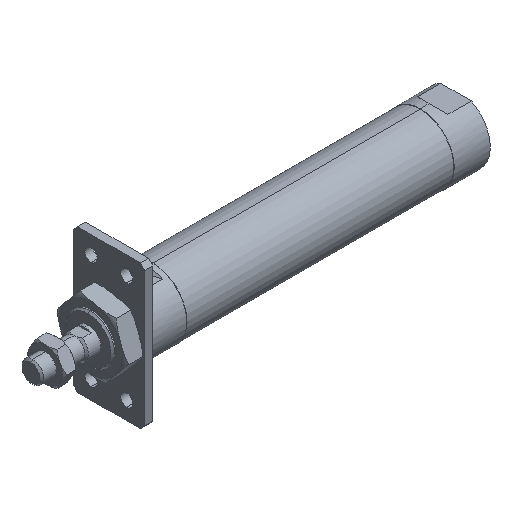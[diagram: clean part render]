
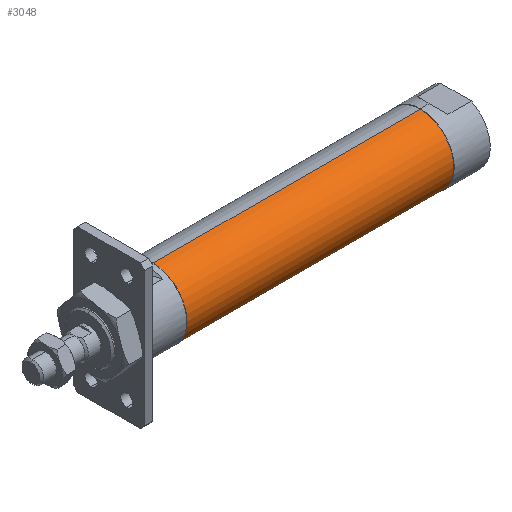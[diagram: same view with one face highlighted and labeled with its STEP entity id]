
A CAD part, isometric view. The second image highlights one B-rep face of the part: STEP entity #3048.
In plain terms, the highlighted cylindrical face has radius 18.8 mm (diameter 37.6 mm), a partial arc.
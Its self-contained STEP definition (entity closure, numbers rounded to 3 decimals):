
#91 = FACE_OUTER_BOUND ( 'NONE', #1168, .T. ) ;
#155 = EDGE_CURVE ( 'NONE', #1259, #759, #2186, .T. ) ;
#200 = CIRCLE ( 'NONE', #1493, 18.8 ) ;
#400 = ORIENTED_EDGE ( 'NONE', *, *, #155, .T. ) ;
#558 = VECTOR ( 'NONE', #3458, 1000. ) ;
#676 = CARTESIAN_POINT ( 'NONE',  ( 217., 0., 0. ) ) ;
#759 = VERTEX_POINT ( 'NONE', #1967 ) ;
#1085 = EDGE_CURVE ( 'NONE', #1259, #3727, #2320, .T. ) ;
#1112 = DIRECTION ( 'NONE',  ( -1., 0., 0. ) ) ;
#1168 = EDGE_LOOP ( 'NONE', ( #3917, #400, #2779, #1855 ) ) ;
#1259 = VERTEX_POINT ( 'NONE', #1742 ) ;
#1397 = DIRECTION ( 'NONE',  ( -1., 0., 0. ) ) ;
#1493 = AXIS2_PLACEMENT_3D ( 'NONE', #2207, #1877, #4102 ) ;
#1599 = EDGE_CURVE ( 'NONE', #759, #1987, #1856, .T. ) ;
#1673 = DIRECTION ( 'NONE',  ( -1., 0., 0. ) ) ;
#1742 = CARTESIAN_POINT ( 'NONE',  ( 217., 0., -18.8 ) ) ;
#1855 = ORIENTED_EDGE ( 'NONE', *, *, #3834, .F. ) ;
#1856 = LINE ( 'NONE', #3434, #558 ) ;
#1867 = CARTESIAN_POINT ( 'NONE',  ( 68., 0., 18.8 ) ) ;
#1877 = DIRECTION ( 'NONE',  ( -1., 0., 0. ) ) ;
#1967 = CARTESIAN_POINT ( 'NONE',  ( 217., 0., 18.8 ) ) ;
#1968 = DIRECTION ( 'NONE',  ( 0., 0., 1. ) ) ;
#1987 = VERTEX_POINT ( 'NONE', #1867 ) ;
#2186 = CIRCLE ( 'NONE', #2837, 18.8 ) ;
#2207 = CARTESIAN_POINT ( 'NONE',  ( 68., 0., 0. ) ) ;
#2320 = LINE ( 'NONE', #3527, #2844 ) ;
#2468 = CARTESIAN_POINT ( 'NONE',  ( 68., 0., -18.8 ) ) ;
#2712 = DIRECTION ( 'NONE',  ( 0., 0., 1. ) ) ;
#2779 = ORIENTED_EDGE ( 'NONE', *, *, #1599, .T. ) ;
#2837 = AXIS2_PLACEMENT_3D ( 'NONE', #676, #1673, #1968 ) ;
#2844 = VECTOR ( 'NONE', #1397, 1000. ) ;
#3048 = ADVANCED_FACE ( 'NONE', ( #91 ), #3307, .T. ) ;
#3307 = CYLINDRICAL_SURFACE ( 'NONE', #3402, 18.8 ) ;
#3402 = AXIS2_PLACEMENT_3D ( 'NONE', #3628, #1112, #2712 ) ;
#3434 = CARTESIAN_POINT ( 'NONE',  ( -1.784, 0., 18.8 ) ) ;
#3458 = DIRECTION ( 'NONE',  ( -1., 0., 0. ) ) ;
#3527 = CARTESIAN_POINT ( 'NONE',  ( -1.784, 0., -18.8 ) ) ;
#3628 = CARTESIAN_POINT ( 'NONE',  ( -1.784, 0., 0. ) ) ;
#3727 = VERTEX_POINT ( 'NONE', #2468 ) ;
#3834 = EDGE_CURVE ( 'NONE', #3727, #1987, #200, .T. ) ;
#3917 = ORIENTED_EDGE ( 'NONE', *, *, #1085, .F. ) ;
#4102 = DIRECTION ( 'NONE',  ( 0., 0., 1. ) ) ;
